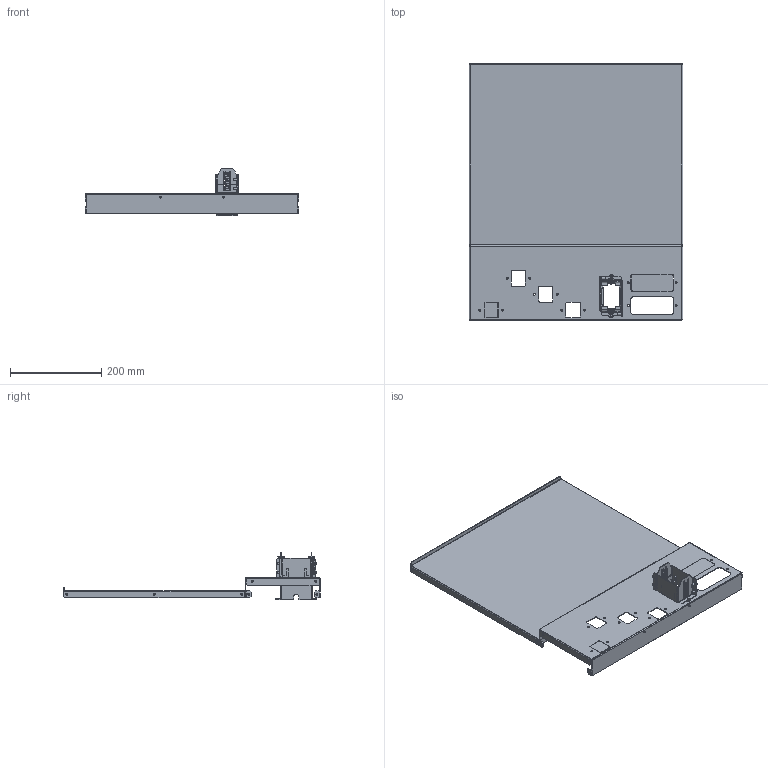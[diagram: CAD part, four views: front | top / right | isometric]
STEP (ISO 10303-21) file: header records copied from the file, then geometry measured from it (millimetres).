
FILE_DESCRIPTION(('CAx-IF Rec.Pracs.---Model Styling and Organization---1.2---2011-12-15','CAx-IF Rec.Pracs.---Geometric and Assembly Validation Properties---4.1---2014-06-16','CAx-IF Rec.Pracs.---PMI Polyline Presentation---2.0---2013-05-24'),'2;1');
FILE_NAME('R5M2W12M1BR21.stp','2021-05-05T12:42:28+03:00',(''),(''),'STEP Interface 4.4 by CT CoreTechnologie','3D_Evolution4.4 by CT CoreTechnologie','');
FILE_SCHEMA(('AUTOMOTIVE_DESIGN { 1 0 10303 214 1 1 1 1 }'));
Length unit declared in the file: millimetre
Products named in the file (9): R5M2W12M1BR21; RB.1567.00.00.0_-00; RB.1765.00.00.0 ÑÁ; RB.1570.00.00.0; RB.1569.00.00.1_-00; RB.1571.00.00.0_In prestressed condition - 40 mm; M5x8-DIN7500C_stright; RB.1506.00.00.0_-02; RB.1507.00.00.0_-05
Assembly tree (14 placements, depth 3):
  R5M2W12M1BR21
    RB.1567.00.00.0_-00
    RB.1765.00.00.0 ÑÁ
      RB.1570.00.00.0  x2
      RB.1569.00.00.1_-00  x2
      RB.1571.00.00.0_In prestressed condition - 40 mm  x2
      M5x8-DIN7500C_stright  x4
    RB.1506.00.00.0_-02
    RB.1507.00.00.0_-05
Bounding box: 470 x 564.2 x 103.8 mm (x, y, z)
Surface area: 707080.4 mm2 (no closed solid volume)
Topology: 0 solids, 22 shells, 754 faces, 1997 edges, 1287 vertices
Faces by surface type: plane 500, cylinder 224, bspline 30
Entity records: 19731 total; most frequent: CARTESIAN_POINT 4685, ORIENTED_EDGE 3014, DIRECTION 2993, EDGE_CURVE 1507, VECTOR 1119, LINE 1119, VERTEX_POINT 969, AXIS2_PLACEMENT_3D 937
